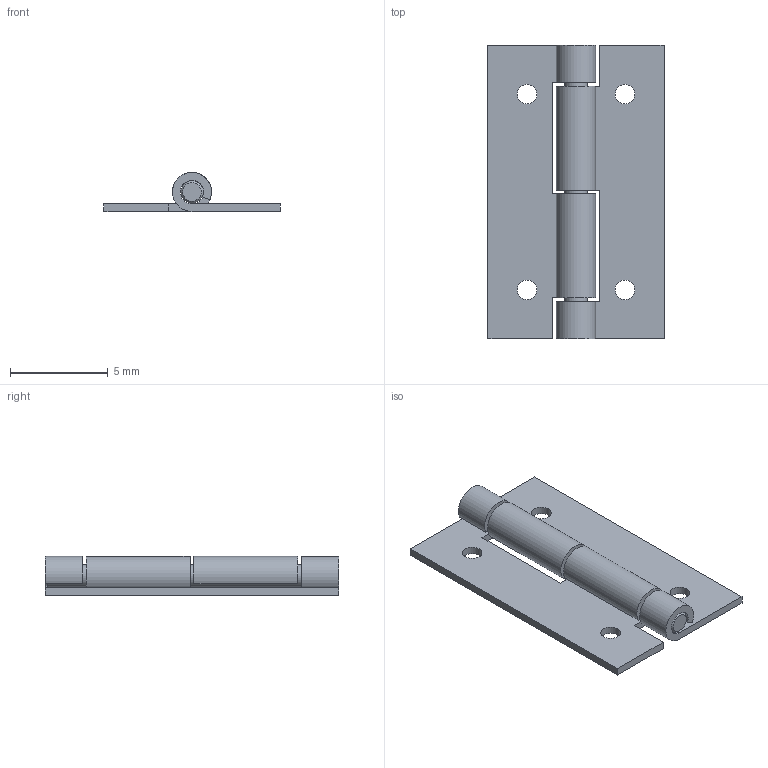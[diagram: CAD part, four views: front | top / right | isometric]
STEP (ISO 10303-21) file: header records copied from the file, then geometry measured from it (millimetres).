
FILE_DESCRIPTION(/* description */ ('Unknown'),/* implementation_level */ '2;1');
FILE_NAME(/* name */ '6218.01.02',/* time_stamp */ '2023-10-10T13:13:49+02:00',/* author */ ('Unknown'),/* organization */ ('Unknown'),/* preprocessor_version */ 'ST-DEVELOPER v16.7',/* originating_system */ 'DEX',/* authorisation */ $);
FILE_SCHEMA (('AUTOMOTIVE_DESIGN {1 0 10303 214 3 1 1}'));
Length unit declared in the file: millimetre
Products named in the file (3): 6218.01.02; Stift
Assembly tree (3 placements, depth 2):
  6218.01.02
    6218.01.02  x2
    Stift
Bounding box: 9 x 15 x 2 mm (x, y, z)
Volume: 84.4 mm3; surface area: 451.4 mm2
Topology: 3 solids, 3 shells, 41 faces, 107 edges, 72 vertices
Faces by surface type: plane 26, cylinder 13, cone 2
Full cylindrical faces by diameter (mm): 1 x4, 1.15 x1
Entity records: 736 total; most frequent: DIRECTION 120, CARTESIAN_POINT 113, ORIENTED_EDGE 100, EDGE_CURVE 50, AXIS2_PLACEMENT_3D 43, VERTEX_POINT 36, LINE 34, VECTOR 34
